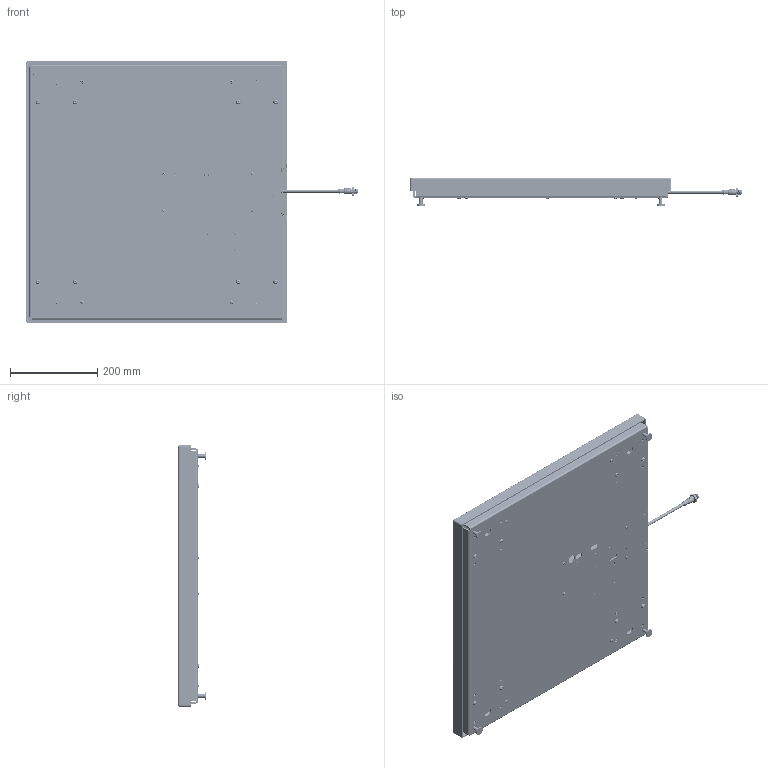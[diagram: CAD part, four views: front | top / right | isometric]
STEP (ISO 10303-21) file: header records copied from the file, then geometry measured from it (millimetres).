
FILE_DESCRIPTION (( 'STEP AP214' ), '1' );
FILE_NAME ('HI2424SBD-130.STEP', '2019-08-15T18:31:34', ( '' ), ( '' ), 'SwSTEP 2.0', 'SolidWorks 2017', '' );
FILE_SCHEMA (( 'AUTOMOTIVE_DESIGN' ));
Length unit declared in the file: millimetre
Products named in the file (55): 0075175_84-227974; 0074881_PBSH-15kg SUB-ASSEMBLY; 0075294; 0530-0629-XX; 0074883_91290A248; 0530-0628-01; 5119-0012; 2814-0098-0_90633A007; 0074871; hex jam nut_ai_HJNUT 0.2500-20-D-N; socket button head cap screw_am_B18.3.4M - 6 x 1.0 x 20 SBHCS --N-A2.70; 0075309; 0075293; 2143-T013; 0075230_91780A198; 0075295; 5121-0013; 2143-T004; 2505-0012; 0530-0865-01-0; pan cross head_ai_CR-PHMS 0.138-32x0.3125x0.3125-N; pan cross head_ai_CR-PHMS 0.138-32x0.375x0.375-N; 0535-0470-03; 0075173_B4; 0534-0470-02; HI2424SBD-130; 4815-0102; 0075174_3 & 4; 2807-0008; 0074904; flat head screw_ai_CR-FHMS 0.164-32x0.875x0.875-N-A2.70; 2817-0272-0_90402A146; 6032-0044; 0044535; 0066958; 0075290; 2814-T011_90631A005; 0075287_C2 CHIP; flat washer type a selected narrow_ai_Selected Narrow FW 0.125; 0018546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
Assembly tree (107 placements, depth 4):
  HI2424SBD-130
    0074904
      0074915_Modified By Hardy_Default<As Machined>
      0074918  x4
      0078239
    0075309
    0075175_84-227974  x4
      0075172_A3, A4 & A5
      0075174_3 & 4
      0075173_B4
    hex jam nut_ai_HJNUT 0.2500-20-D-N  x4
    0074757_Modified By Hardy
    0075198  x4
    0075200_93505A451  x4
    0075290
      0075233
      0018546  x4
      0075287_C2 CHIP
      0075295  x4
        0075294
        0075293
    pan cross head_ai_CR-PHMS 0.164-32x0.3125x0.3125-N-A2.70  x4
    0074881_PBSH-15kg SUB-ASSEMBLY  x4
      0074871
      0044535
      0066958
      0074883_91290A248
    0075231_PBSH-60kg 600 X 600  x4
      0075230_91780A198
      0075232_80-001903
      flat head screw_ai_CR-FHMS 0.164-32x0.875x0.875-N-A2.70
      pan cross head_ai_CR-PHMS 0.164-32x0.3125x0.3125-N-A2.70
    socket button head cap screw_am_B18.3.4M - 6 x 1.0 x 20 SBHCS --N-A2.70  x8
    2814-0098-0_90633A007  x2
    0514-0239-01-0
    2817-0272-0_90402A146
    socket head cap screw_am_B18.3.1M - 4 x 0.7 x 8 Hex SHCS -- 8NHX-A2.70
    0535-0470-03
      0534-0470-02
      2807-0008
      5119-0012
      5121-0013
      4815-0102  x2
    2505-0012
    0530-0865-01-0
    2815-0158_91780A133  x4
    pan cross head_ai_CR-PHMS 0.138-32x0.375x0.375-N
    pan cross head_ai_CR-PHMS 0.138-32x0.3125x0.3125-N  x8
    6007-0055
    6032-0044
    2143-T004
    2143-T013
    flat washer type a selected narrow_ai_Selected Narrow FW 0.125
    2814-T011_90631A005
    0530-0628-01
    0530-0629-XX
Bounding box: 762.12 x 64.1 x 600 mm (x, y, z)
Volume: 3173304 mm3; surface area: 1933194 mm2
Topology: 229 solids, 244 shells, 12578 faces, 32692 edges, 21097 vertices
Faces by surface type: plane 7801, cylinder 2433, bspline 1144, cone 944, torus 200, sphere 56
Entity records: 383239 total; most frequent: CARTESIAN_POINT 91274, ORIENTED_EDGE 48132, DIRECTION 39654, EDGE_CURVE 24103, LINE 18030, VECTOR 18030, VERTEX_POINT 15815, AXIS2_PLACEMENT_3D 10812
